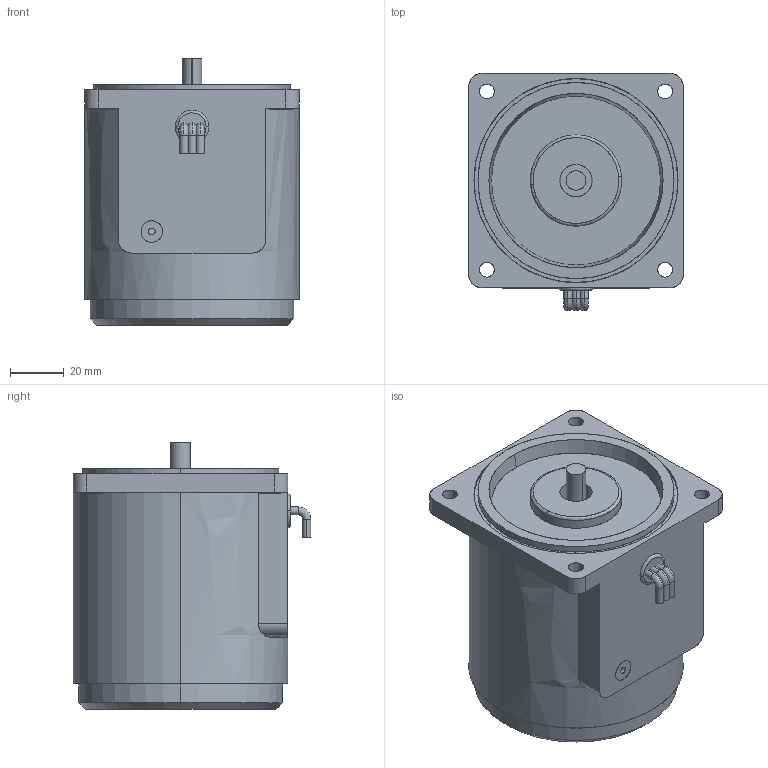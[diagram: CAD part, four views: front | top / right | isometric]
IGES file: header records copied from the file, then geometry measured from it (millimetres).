
Start section: SolidWorks IGES file using analytic representation for surfaces
Bounding box: 80 x 88.5 x 99.5 mm (x, y, z)
Surface area: 70493.8 mm2 (no closed solid volume)
Topology: 0 solids, 0 shells, 117 faces, 2780 edges, 2780 vertices
Faces by surface type: revolution 66, bspline 51
